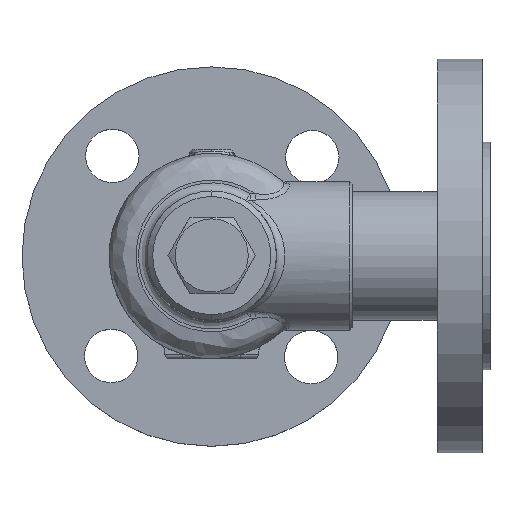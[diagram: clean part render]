
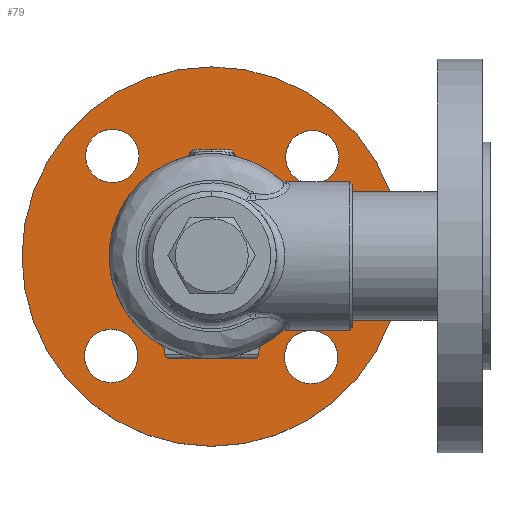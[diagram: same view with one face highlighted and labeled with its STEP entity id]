
A CAD part, top view. The second image highlights one B-rep face of the part: STEP entity #79.
In plain terms, the highlighted planar face has unit normal (0, 0, 1) as drawn and (0, 1, 0) by its records, which use the part's own axes.
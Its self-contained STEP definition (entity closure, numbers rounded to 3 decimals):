
#79=ADVANCED_FACE('',(#250,#251,#252,#253,#254,#255),#249,.T.);
#249=PLANE('',#1539);
#250=FACE_OUTER_BOUND('',#1540,.T.);
#251=FACE_BOUND('',#1541,.T.);
#252=FACE_BOUND('',#1542,.T.);
#253=FACE_BOUND('',#1543,.T.);
#254=FACE_BOUND('',#1544,.T.);
#255=FACE_BOUND('',#1545,.T.);
#1536=CARTESIAN_POINT('',(-126.913,-114.,-145.));
#1537=DIRECTION('',(0.,1.,0.));
#1538=DIRECTION('',(0.,0.,1.));
#1539=AXIS2_PLACEMENT_3D('',#1536,#1537,#1538);
#1540=EDGE_LOOP('',(#3444,#3445));
#1541=EDGE_LOOP('',(#3446,#3447));
#1542=EDGE_LOOP('',(#3448,#3449));
#1543=EDGE_LOOP('',(#3450,#3451));
#1544=EDGE_LOOP('',(#3452,#3453));
#1545=EDGE_LOOP('',(#3454,#3455));
#3444=ORIENTED_EDGE('',*,*,#4071,.T.);
#3445=ORIENTED_EDGE('',*,*,#4072,.T.);
#3446=ORIENTED_EDGE('',*,*,#4073,.F.);
#3447=ORIENTED_EDGE('',*,*,#4074,.F.);
#3448=ORIENTED_EDGE('',*,*,#4075,.F.);
#3449=ORIENTED_EDGE('',*,*,#4076,.F.);
#3450=ORIENTED_EDGE('',*,*,#4077,.F.);
#3451=ORIENTED_EDGE('',*,*,#4078,.F.);
#3452=ORIENTED_EDGE('',*,*,#4079,.F.);
#3453=ORIENTED_EDGE('',*,*,#4080,.F.);
#3454=ORIENTED_EDGE('',*,*,#4081,.F.);
#3455=ORIENTED_EDGE('',*,*,#4082,.F.);
#4071=EDGE_CURVE('',#4540,#4541,#4542,.T.);
#4072=EDGE_CURVE('',#4541,#4540,#4548,.T.);
#4073=EDGE_CURVE('',#4554,#4555,#4556,.T.);
#4074=EDGE_CURVE('',#4555,#4554,#4562,.T.);
#4075=EDGE_CURVE('',#4568,#4569,#4570,.T.);
#4076=EDGE_CURVE('',#4569,#4568,#4576,.T.);
#4077=EDGE_CURVE('',#4582,#4583,#4584,.T.);
#4078=EDGE_CURVE('',#4583,#4582,#4590,.T.);
#4079=EDGE_CURVE('',#4596,#4597,#4598,.T.);
#4080=EDGE_CURVE('',#4597,#4596,#4604,.T.);
#4081=EDGE_CURVE('',#4610,#4611,#4612,.T.);
#4082=EDGE_CURVE('',#4611,#4610,#4618,.T.);
#4540=VERTEX_POINT('',#6580);
#4541=VERTEX_POINT('',#6581);
#4542=CIRCLE('',#6585,67.5);
#4548=CIRCLE('',#6589,67.5);
#4554=VERTEX_POINT('',#6590);
#4555=VERTEX_POINT('',#6591);
#4556=CIRCLE('',#6595,9.5);
#4562=CIRCLE('',#6599,9.5);
#4568=VERTEX_POINT('',#6600);
#4569=VERTEX_POINT('',#6601);
#4570=CIRCLE('',#6605,9.5);
#4576=CIRCLE('',#6609,9.5);
#4582=VERTEX_POINT('',#6610);
#4583=VERTEX_POINT('',#6611);
#4584=CIRCLE('',#6615,9.5);
#4590=CIRCLE('',#6619,9.5);
#4596=VERTEX_POINT('',#6620);
#4597=VERTEX_POINT('',#6621);
#4598=CIRCLE('',#6625,9.5);
#4604=CIRCLE('',#6629,9.5);
#4610=VERTEX_POINT('',#6630);
#4611=VERTEX_POINT('',#6631);
#4612=CIRCLE('',#6635,21.35);
#4618=CIRCLE('',#6639,21.35);
#6580=CARTESIAN_POINT('',(0.,-114.,67.5));
#6581=CARTESIAN_POINT('',(0.,-114.,-67.5));
#6582=CARTESIAN_POINT('',(0.,-114.,0.));
#6583=DIRECTION('',(0.,1.,0.));
#6584=DIRECTION('',(0.,0.,1.));
#6585=AXIS2_PLACEMENT_3D('',#6582,#6583,#6584);
#6586=CARTESIAN_POINT('',(0.,-114.,0.));
#6587=DIRECTION('',(0.,1.,0.));
#6588=DIRECTION('',(0.,0.,1.));
#6589=AXIS2_PLACEMENT_3D('',#6586,#6587,#6588);
#6590=CARTESIAN_POINT('',(35.781,-114.,-44.855));
#6591=CARTESIAN_POINT('',(35.781,-114.,-25.855));
#6592=CARTESIAN_POINT('',(35.781,-114.,-35.355));
#6593=DIRECTION('',(0.,1.,0.));
#6594=DIRECTION('',(0.,0.,1.));
#6595=AXIS2_PLACEMENT_3D('',#6592,#6593,#6594);
#6596=CARTESIAN_POINT('',(35.781,-114.,-35.355));
#6597=DIRECTION('',(0.,1.,0.));
#6598=DIRECTION('',(0.,0.,1.));
#6599=AXIS2_PLACEMENT_3D('',#6596,#6597,#6598);
#6600=CARTESIAN_POINT('',(35.355,-114.,26.281));
#6601=CARTESIAN_POINT('',(35.355,-114.,45.281));
#6602=CARTESIAN_POINT('',(35.355,-114.,35.781));
#6603=DIRECTION('',(0.,1.,0.));
#6604=DIRECTION('',(0.,0.,1.));
#6605=AXIS2_PLACEMENT_3D('',#6602,#6603,#6604);
#6606=CARTESIAN_POINT('',(35.355,-114.,35.781));
#6607=DIRECTION('',(0.,1.,0.));
#6608=DIRECTION('',(0.,0.,1.));
#6609=AXIS2_PLACEMENT_3D('',#6606,#6607,#6608);
#6610=CARTESIAN_POINT('',(-35.781,-114.,25.855));
#6611=CARTESIAN_POINT('',(-35.781,-114.,44.855));
#6612=CARTESIAN_POINT('',(-35.781,-114.,35.355));
#6613=DIRECTION('',(0.,1.,0.));
#6614=DIRECTION('',(0.,0.,1.));
#6615=AXIS2_PLACEMENT_3D('',#6612,#6613,#6614);
#6616=CARTESIAN_POINT('',(-35.781,-114.,35.355));
#6617=DIRECTION('',(0.,1.,0.));
#6618=DIRECTION('',(0.,0.,1.));
#6619=AXIS2_PLACEMENT_3D('',#6616,#6617,#6618);
#6620=CARTESIAN_POINT('',(-35.355,-114.,-45.281));
#6621=CARTESIAN_POINT('',(-35.355,-114.,-26.281));
#6622=CARTESIAN_POINT('',(-35.355,-114.,-35.781));
#6623=DIRECTION('',(0.,1.,0.));
#6624=DIRECTION('',(0.,0.,1.));
#6625=AXIS2_PLACEMENT_3D('',#6622,#6623,#6624);
#6626=CARTESIAN_POINT('',(-35.355,-114.,-35.781));
#6627=DIRECTION('',(0.,1.,0.));
#6628=DIRECTION('',(0.,0.,1.));
#6629=AXIS2_PLACEMENT_3D('',#6626,#6627,#6628);
#6630=CARTESIAN_POINT('',(0.,-114.,-21.35));
#6631=CARTESIAN_POINT('',(0.,-114.,21.35));
#6632=CARTESIAN_POINT('',(0.,-114.,0.));
#6633=DIRECTION('',(0.,1.,0.));
#6634=DIRECTION('',(0.,0.,1.));
#6635=AXIS2_PLACEMENT_3D('',#6632,#6633,#6634);
#6636=CARTESIAN_POINT('',(0.,-114.,0.));
#6637=DIRECTION('',(0.,1.,0.));
#6638=DIRECTION('',(0.,0.,1.));
#6639=AXIS2_PLACEMENT_3D('',#6636,#6637,#6638);
